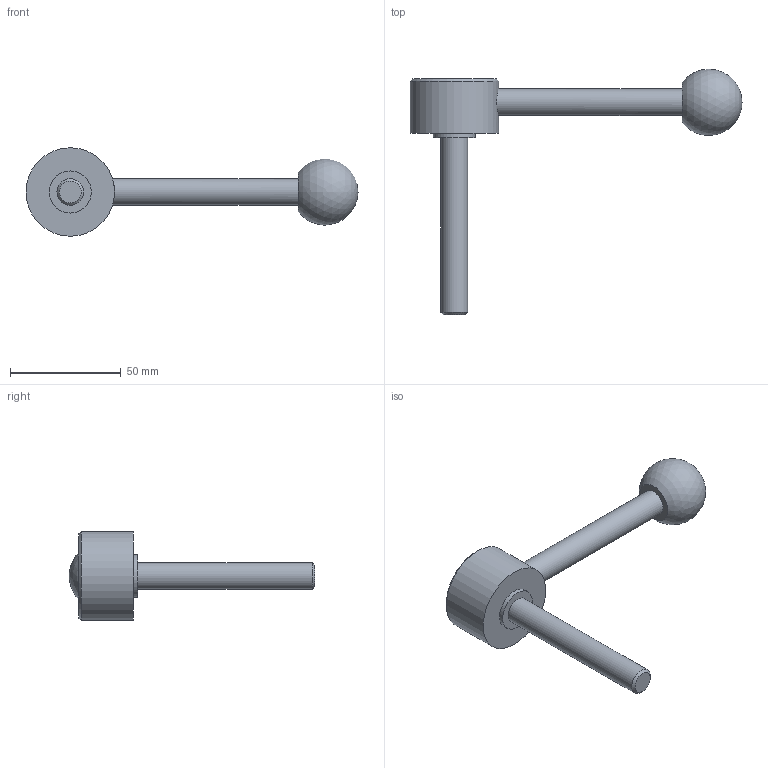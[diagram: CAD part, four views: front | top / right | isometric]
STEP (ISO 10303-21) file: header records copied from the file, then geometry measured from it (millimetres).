
FILE_DESCRIPTION( ( 'STEP AP203' ), '1' );
FILE_NAME( 'C:/Temp/Ganter_Step_05_03_2020/data/2_1/gn_125/gn_125_ms/gn_125_ms_d/Flat Adjustable Lever GN 125-40-M12-80-D.stp', '2020-03-05T11:00:51', ( 'License CC BY-ND 4.0' ), ( 'CADENAS' ), ' ', 'PARTsolutions', ' ' );
FILE_SCHEMA( ( 'CONFIG_CONTROL_DESIGN' ) );
Length unit declared in the file: millimetre
Products named in the file (1): _Flat Adjustable Lever GN 125-40-M12-80-D
Bounding box: 150 x 110.89 x 40 mm (x, y, z)
Volume: 63320.5 mm3; surface area: 14367.1 mm2
Topology: 1 solids, 1 shells, 14 faces, 23 edges, 15 vertices
Faces by surface type: plane 6, cylinder 5, cone 2, sphere 1
Full cylindrical faces by diameter (mm): 12 x2, 19 x1, 28 x1, 40 x1
Entity records: 402 total; most frequent: CARTESIAN_POINT 125, DIRECTION 54, AXIS2_PLACEMENT_3D 27, EDGE_LOOP 26, ORIENTED_EDGE 26, FACE_OUTER_BOUND 19, ADVANCED_FACE 14, VERTEX_POINT 14
